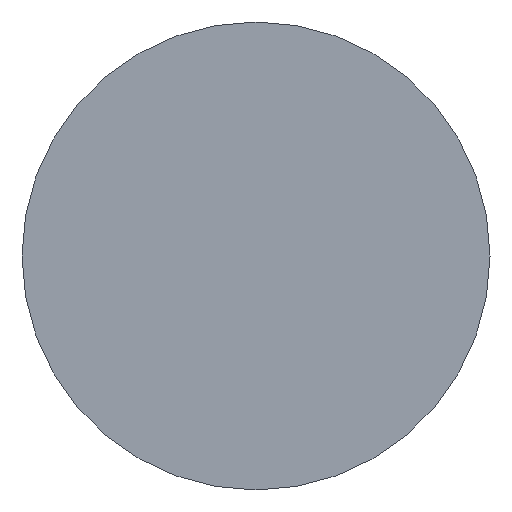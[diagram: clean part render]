
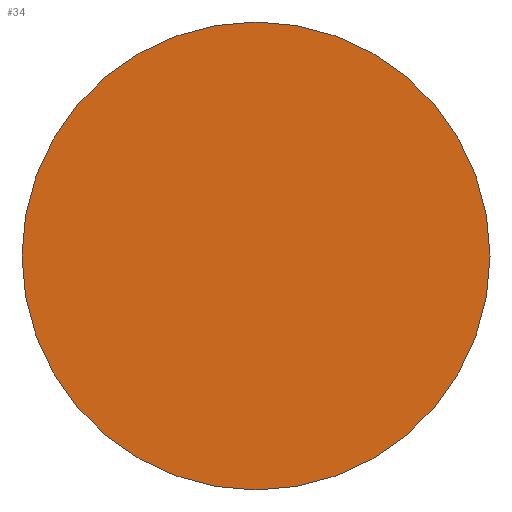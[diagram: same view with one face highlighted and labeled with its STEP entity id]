
A CAD part, top view. The second image highlights one B-rep face of the part: STEP entity #34.
In plain terms, the highlighted planar face has unit normal (0, 0, 1).
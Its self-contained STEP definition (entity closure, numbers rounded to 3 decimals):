
#34=ADVANCED_FACE('',(#71),#72,.T.);
#71=FACE_OUTER_BOUND('',#116,.T.);
#72=PLANE('',#117);
#116=EDGE_LOOP('',(#155));
#117=AXIS2_PLACEMENT_3D('',#156,#157,#158);
#155=ORIENTED_EDGE('',*,*,#213,.F.);
#156=CARTESIAN_POINT('',(-18.5,-0.0,0.0));
#157=DIRECTION('',(0.0,0.,1.0));
#158=DIRECTION('',(0.0,-1.0,0.));
#213=EDGE_CURVE('',#232,#232,#233,.T.);
#232=VERTEX_POINT('',#260);
#233=CIRCLE('',#261,18.5);
#260=CARTESIAN_POINT('',(0.,18.5,0.));
#261=AXIS2_PLACEMENT_3D('',#287,#288,#289);
#287=CARTESIAN_POINT('',(0.,-0.0,0.0));
#288=DIRECTION('',(-0.0,0.,-1.0));
#289=DIRECTION('',(0.0,1.0,0.));
